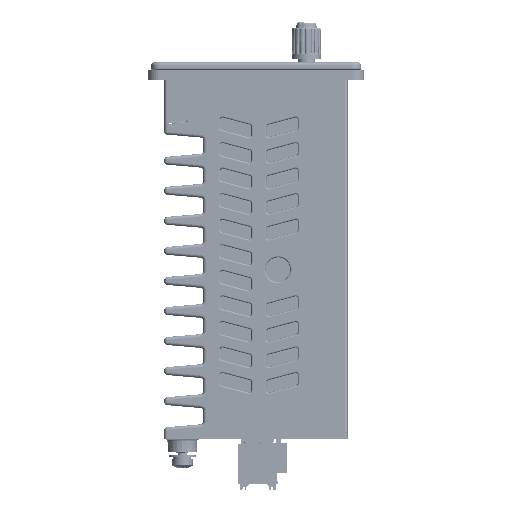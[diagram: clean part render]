
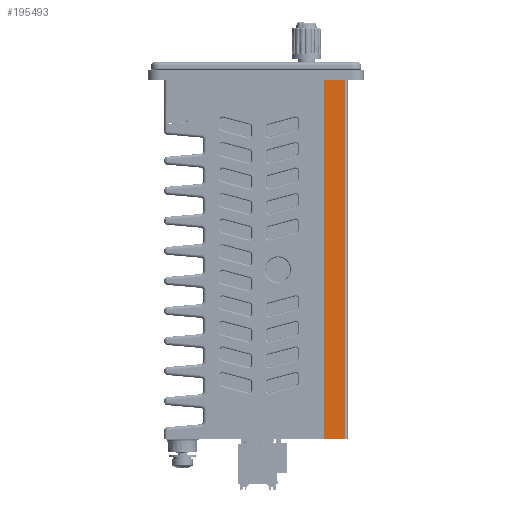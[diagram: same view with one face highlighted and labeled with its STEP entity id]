
A CAD part, front view. The second image highlights one B-rep face of the part: STEP entity #195493.
In plain terms, the highlighted planar face has unit normal (0, -1, 0).
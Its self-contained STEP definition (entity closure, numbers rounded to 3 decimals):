
#3121 = EDGE_CURVE ( 'NONE', #263611, #25673, #145375, .T. ) ;
#14448 = DIRECTION ( 'NONE',  ( 1., 0., 0. ) ) ;
#21638 = VECTOR ( 'NONE', #241698, 1000. ) ;
#23711 = EDGE_LOOP ( 'NONE', ( #314274, #108832, #208782, #140304 ) ) ;
#25673 = VERTEX_POINT ( 'NONE', #221434 ) ;
#28804 = FACE_OUTER_BOUND ( 'NONE', #23711, .T. ) ;
#53647 = LINE ( 'NONE', #212380, #21638 ) ;
#59759 = CARTESIAN_POINT ( 'NONE',  ( -30.5, -52.5, -61.5 ) ) ;
#60841 = LINE ( 'NONE', #62540, #318780 ) ;
#62540 = CARTESIAN_POINT ( 'NONE',  ( 29.5, -52.5, -61.5 ) ) ;
#63145 = DIRECTION ( 'NONE',  ( 0., 0., -1. ) ) ;
#96427 = VERTEX_POINT ( 'NONE', #105474 ) ;
#101687 = CARTESIAN_POINT ( 'NONE',  ( 22.719, -52.5, -61.5 ) ) ;
#105474 = CARTESIAN_POINT ( 'NONE',  ( 29.5, -52.5, 61.5 ) ) ;
#108832 = ORIENTED_EDGE ( 'NONE', *, *, #141151, .T. ) ;
#119463 = CARTESIAN_POINT ( 'NONE',  ( -30.5, -52.5, -61.5 ) ) ;
#120620 = EDGE_CURVE ( 'NONE', #195694, #263611, #53647, .T. ) ;
#140304 = ORIENTED_EDGE ( 'NONE', *, *, #120620, .T. ) ;
#141151 = EDGE_CURVE ( 'NONE', #25673, #96427, #60841, .T. ) ;
#142192 = LINE ( 'NONE', #168091, #291525 ) ;
#145375 = LINE ( 'NONE', #119463, #319894 ) ;
#160221 = AXIS2_PLACEMENT_3D ( 'NONE', #59759, #240975, #63145 ) ;
#168091 = CARTESIAN_POINT ( 'NONE',  ( -30.5, -52.5, 61.5 ) ) ;
#194261 = PLANE ( 'NONE',  #160221 ) ;
#195493 = ADVANCED_FACE ( 'NONE', ( #28804 ), #194261, .T. ) ;
#195694 = VERTEX_POINT ( 'NONE', #282193 ) ;
#208782 = ORIENTED_EDGE ( 'NONE', *, *, #297310, .F. ) ;
#212380 = CARTESIAN_POINT ( 'NONE',  ( 22.719, -52.5, -61.5 ) ) ;
#221434 = CARTESIAN_POINT ( 'NONE',  ( 29.5, -52.5, -61.5 ) ) ;
#224705 = DIRECTION ( 'NONE',  ( 1., 0., 0. ) ) ;
#240975 = DIRECTION ( 'NONE',  ( 0., -1., 0. ) ) ;
#241698 = DIRECTION ( 'NONE',  ( 0., 0., -1. ) ) ;
#263611 = VERTEX_POINT ( 'NONE', #101687 ) ;
#282193 = CARTESIAN_POINT ( 'NONE',  ( 22.719, -52.5, 61.5 ) ) ;
#291525 = VECTOR ( 'NONE', #14448, 1000. ) ;
#297310 = EDGE_CURVE ( 'NONE', #195694, #96427, #142192, .T. ) ;
#314274 = ORIENTED_EDGE ( 'NONE', *, *, #3121, .T. ) ;
#318780 = VECTOR ( 'NONE', #321426, 1000. ) ;
#319894 = VECTOR ( 'NONE', #224705, 1000. ) ;
#321426 = DIRECTION ( 'NONE',  ( 0., 0., 1. ) ) ;
